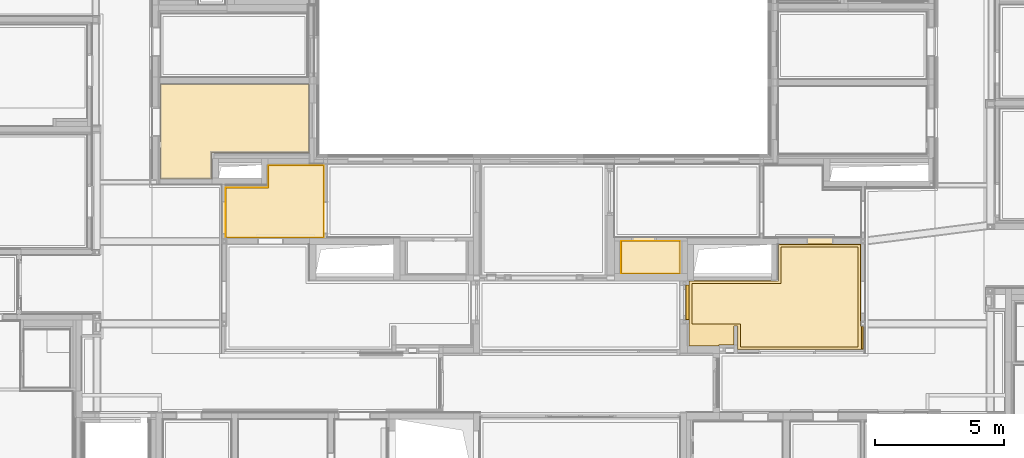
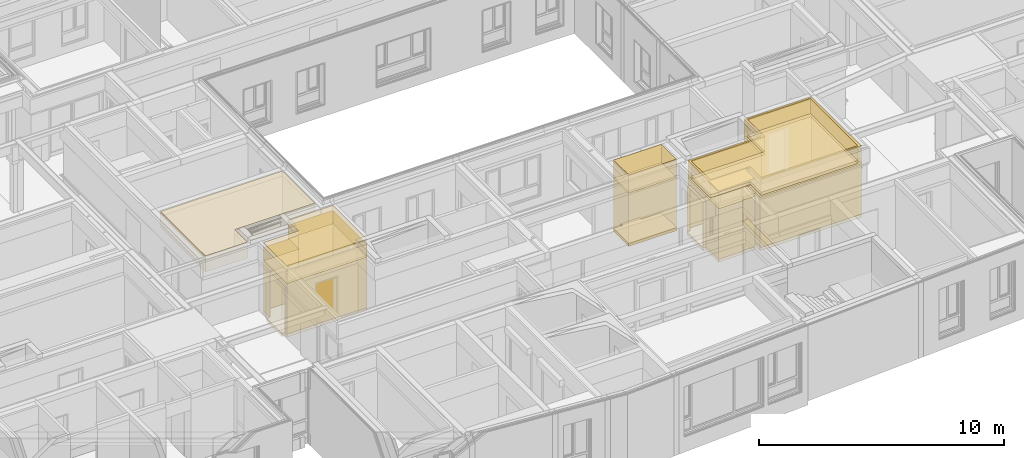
# One storey, part 169 of 222: 24 coverings.
"""IFC4 building model written with IfcOpenShell, lengths in metres."""

from ifc_helpers import new_model, entity, si_unit, converted_unit, derived_unit, frame, frame_2d, origin, place, context, subcontext, project, spatial, polyline, rectangle, outline, extrude, material, layer, layer_set, layer_usage, element, save


model = new_model("IFC4")

# Units and contexts
model_context = context("Model", 3, precision=1e-05, world=origin())
body_context = subcontext(model_context, "Body", "Model", "MODEL_VIEW")
ifc_project = project(units=[si_unit("LENGTHUNIT", "METRE"), si_unit("AREAUNIT", "SQUARE_METRE"), si_unit("VOLUMEUNIT", "CUBIC_METRE"), si_unit("MASSUNIT", "GRAM", prefix="KILO"), converted_unit("PLANEANGLEUNIT", "DEGREE", entity("IfcPlaneAngleMeasure", 0.0174532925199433), si_unit("PLANEANGLEUNIT", "RADIAN"), dimensions=[0, 0, 0, 0, 0, 0, 0]), derived_unit("THERMALTRANSMITTANCEUNIT", [(si_unit("POWERUNIT", "WATT"), 1), (si_unit("THERMODYNAMICTEMPERATUREUNIT", "KELVIN"), -1), (si_unit("LENGTHUNIT", "METRE"), -2)]), derived_unit("VOLUMETRICFLOWRATEUNIT", [(si_unit("LENGTHUNIT", "METRE"), 3), (converted_unit("TIMEUNIT", "hour", entity("IfcTimeMeasure", 3600.0), si_unit("TIMEUNIT", "SECOND"), dimensions=[0, 0, 1, 0, 0, 0, 0]), -1), (si_unit("LENGTHUNIT", "METRE"), -1)])], contexts=[model_context])

# Site, building, storey, space
site_placement = place(None, origin())
site = spatial("IfcSite", under=ifc_project, at=site_placement, Name="Psychiatrie Neubau Wunstorf", CompositionType="ELEMENT")
building_placement = place(site_placement, origin())
building = spatial("IfcBuilding", under=site, at=building_placement, Name="Neubau H2 Stationsgebäude", CompositionType="ELEMENT")
storey_placement = place(building_placement, frame((0.0, 0.0, 3.6)))
storey = spatial("IfcBuildingStorey", under=building, at=storey_placement, Name="H2 Ebene +1", CompositionType="ELEMENT", Elevation=3.6)
space_1_placement = place(storey_placement, frame((40.724997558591, 7.29984136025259, 0.0)))
space_1 = spatial("IfcSpace", under=storey, at=space_1_placement, Name="WUN-H2-E01-012", CompositionType="ELEMENT")

# Coverings
ifc_material_1 = material(Name="Ku1")
ifc_layer_1 = layer(ifc_material_1, 0.15)
ifc_layer_set_1 = layer_set([ifc_layer_1])
ifc_layer_usage_1 = layer_usage(ifc_layer_set_1, "AXIS3", "POSITIVE", 0.0)
covering_1_placement = place(space_1_placement, frame((-0.149999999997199, 0.0, 0.0)))
element("IfcCovering", 1, at=covering_1_placement, inside=space_1, material=ifc_layer_usage_1, Name="PVC Bahnenware Holzoptik", PredefinedType="FLOORING", context=body_context, shape_type="SweptSolid", body=[
    extrude(rectangle(XDim=0.15, YDim=1.26, at=frame_2d((0.075, 0.63), x_axis=(1.0, 0.0))), frame((0.0, 0.12515833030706, 0.0), z_axis=(0.0, 0.0, 1.0), x_axis=(1.0, 0.0, 0.0)), (0.0, 0.0, 1.0), 0.15),
    extrude(outline(polyline([(1.65495325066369, 1.91015525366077), (0.0, 1.91015525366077), (0.0, 0.0), (3.77500244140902, 0.00015833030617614), (3.77500244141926, 2.77415833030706), (1.65495325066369, 2.77415833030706), (1.65495325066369, 1.91015525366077)])), frame((0.149999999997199, 0.0, 0.0), z_axis=(0.0, 0.0, 1.0), x_axis=(1.0, 0.0, 0.0)), (0.0, 0.0, 1.0), 0.15),
])
ifc_material_2 = material()
ifc_layer_2 = layer(ifc_material_2, 0.036)
ifc_layer_set_2 = layer_set([ifc_layer_2])
ifc_layer_usage_2 = layer_usage(ifc_layer_set_2, "AXIS3", "POSITIVE", 0.0)
covering_2_placement = place(space_1_placement, frame((0.0, 0.0, 3.55)))
element("IfcCovering", 2, at=covering_2_placement, inside=space_1, material=ifc_layer_usage_2, Name="Gipsfaserplatten 2-lagig (BSK)", PredefinedType="CEILING", context=body_context, shape_type="SweptSolid", body=[
    extrude(outline(polyline([(0.0, 0.864003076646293), (1.65495325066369, 0.864003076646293), (1.65495325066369, 0.0), (3.77500244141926, 0.0), (3.77500244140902, 2.77400000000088), (0.0, 2.77415833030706), (0.0, 0.864003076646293)])), frame((0.0, 2.77415833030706, 0.0), z_axis=(0.0, 0.0, -1.0), x_axis=(1.0, 0.0, 0.0)), (0.0, 0.0, 1.0), 0.036),
])
ifc_material_3 = material(Name="Installationshöhe")
ifc_layer_3 = layer(ifc_material_3, 0.764)
ifc_layer_set_3 = layer_set([ifc_layer_3])
ifc_layer_usage_3 = layer_usage(ifc_layer_set_3, "AXIS3", "POSITIVE", 0.0)
covering_3_placement = place(space_1_placement, frame((0.0, 0.0, 3.514)))
element("IfcCovering", 3, at=covering_3_placement, inside=space_1, material=ifc_layer_usage_3, Name="Gipsfaserplatten 2-lagig (BSK)", PredefinedType="CEILING", context=body_context, shape_type="SweptSolid", body=[
    extrude(outline(polyline([(0.0, 0.864003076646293), (1.65495325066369, 0.864003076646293), (1.65495325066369, 0.0), (3.77500244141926, 0.0), (3.77500244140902, 2.77400000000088), (0.0, 2.77415833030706), (0.0, 0.864003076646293)])), frame((0.0, 2.77415833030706, 0.0), z_axis=(0.0, 0.0, -1.0), x_axis=(1.0, 0.0, 0.0)), (0.0, 0.0, 1.0), 0.764),
])
ifc_material_4 = material(Name="A1")
ifc_layer_4 = layer(ifc_material_4, 0.1)
ifc_layer_set_4 = layer_set([ifc_layer_4])
ifc_layer_usage_4 = layer_usage(ifc_layer_set_4, "AXIS3", "POSITIVE", 0.0)
covering_4_placement = place(space_1_placement, frame((0.0, 0.0, 2.75)))
element("IfcCovering", 4, at=covering_4_placement, inside=space_1, material=ifc_layer_usage_4, Name="Gipsfaserplatten 2-lagig (BSK)", PredefinedType="CEILING", context=body_context, shape_type="SweptSolid", body=[
    extrude(outline(polyline([(0.0, 0.864003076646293), (1.65495325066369, 0.864003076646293), (1.65495325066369, 0.0), (3.77500244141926, 0.0), (3.77500244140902, 2.77400000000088), (0.0, 2.77415833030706), (0.0, 0.864003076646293)])), frame((0.0, 2.77415833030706, 0.0), z_axis=(0.0, 0.0, -1.0), x_axis=(1.0, 0.0, 0.0)), (0.0, 0.0, 1.0), 0.1),
])
ifc_material_5 = material(Name="D1")
ifc_layer_5 = layer(ifc_material_5, 0.001)
ifc_layer_set_5 = layer_set([ifc_layer_5])
ifc_layer_usage_5 = layer_usage(ifc_layer_set_5, "AXIS3", "POSITIVE", 0.0)
covering_5_placement = place(space_1_placement, frame((0.0, 0.0, 2.65)))
element("IfcCovering", 5, at=covering_5_placement, inside=space_1, material=ifc_layer_usage_5, Name="Gipsfaserplatten 2-lagig (BSK)", PredefinedType="CEILING", context=body_context, shape_type="SweptSolid", body=[
    extrude(outline(polyline([(0.0, 0.864003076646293), (1.65495325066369, 0.864003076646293), (1.65495325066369, 0.0), (3.77500244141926, 0.0), (3.77500244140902, 2.77400000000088), (0.0, 2.77415833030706), (0.0, 0.864003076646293)])), frame((0.0, 2.77415833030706, 0.0), z_axis=(0.0, 0.0, -1.0), x_axis=(1.0, 0.0, 0.0)), (0.0, 0.0, 1.0), 0.001),
])
ifc_material_6 = material(Name="49")
ifc_layer_6 = layer(ifc_material_6, 0.001)
ifc_layer_set_6 = layer_set([ifc_layer_6])
ifc_layer_usage_6 = layer_usage(ifc_layer_set_6, "AXIS3", "POSITIVE", 0.0)
covering_6_placement = place(space_1_placement, frame((0.0, 0.0, 0.15)))
element("IfcCovering", 6, at=covering_6_placement, inside=space_1, material=ifc_layer_usage_6, PredefinedType="CLADDING", context=body_context, shape_type="SweptSolid", body=[
    extrude(rectangle(XDim=2.12004919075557, YDim=3.15, at=frame_2d((1.06002459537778, -1.575), x_axis=(1.0, 0.0))), frame((3.77500244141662, 2.77415833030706, 0.0), z_axis=(0.0, -1.0, 0.0), x_axis=(-1.0, 0.0, 0.0)), (0.0, 0.0, 1.0), 0.001),
    extrude(rectangle(XDim=0.864003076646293, YDim=3.15, at=frame_2d((0.432001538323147, -1.575), x_axis=(1.0, 0.0))), frame((1.65495325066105, 2.77415833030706, 0.0), z_axis=(1.0, 0.0, 0.0), x_axis=(0.0, -1.0, 0.0)), (0.0, 0.0, 1.0), 0.001),
    extrude(rectangle(XDim=1.65495325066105, YDim=3.15, at=frame_2d((0.827476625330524, -1.575), x_axis=(1.0, 0.0))), frame((1.65495325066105, 1.91015525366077, 0.0), z_axis=(0.0, -1.0, 0.0), x_axis=(-1.0, 0.0, 0.0)), (0.0, 0.0, 1.0), 0.001),
    extrude(outline(polyline([(0.0, 3.15), (0.524996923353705, 3.15), (0.524996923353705, 0.89), (1.78499692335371, 0.89), (1.78499692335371, 3.15), (1.91015525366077, 3.15), (1.91015525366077, 0.0), (0.0, 0.0), (0.0, 3.15)])), frame((0.0, 1.91015525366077, 3.15), z_axis=(1.0, -1.10786174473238e-12, -2.31746986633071e-13), x_axis=(-1.10786174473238e-12, -1.0, 0.0)), (0.0, 0.0, 1.0), 0.001),
    extrude(rectangle(XDim=3.77500244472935, YDim=3.15, at=frame_2d((1.88750122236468, -1.575), x_axis=(1.0, 0.0))), frame((0.0, 0.0, 0.0), z_axis=(-4.19417757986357e-05, 0.999999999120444, 0.0), x_axis=(0.999999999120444, 4.19417757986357e-05, 0.0)), (0.0, 0.0, 1.0), 0.001),
    extrude(outline(polyline([(0.0, 3.15), (0.125000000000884, 3.15), (0.125000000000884, 0.89), (1.38500000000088, 0.89), (1.38500000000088, 3.15), (2.77400000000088, 3.15), (2.77400000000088, 0.0), (0.0, 0.0), (0.0, 3.15)])), frame((3.77500244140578, 0.00015833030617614, 3.15), z_axis=(-1.0, 3.1588717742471e-12, -2.67020734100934e-13), x_axis=(3.1588717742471e-12, 1.0, 0.0)), (0.0, 0.0, 1.0), 0.001),
])

# Space
space_2_placement = place(storey_placement, frame((38.204, 9.55599624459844, 0.0)))
space_2 = spatial("IfcSpace", under=storey, at=space_2_placement, Name="WUN-H2-E01-011", CompositionType="ELEMENT")

# Coverings
ifc_material_7 = material()
ifc_layer_7 = layer(ifc_material_7, 0.036)
ifc_layer_set_7 = layer_set([ifc_layer_7])
ifc_layer_usage_7 = layer_usage(ifc_layer_set_7, "AXIS3", "POSITIVE", 0.0)
covering_7_placement = place(space_2_placement, frame((0.0, 0.0, 3.55)))
element("IfcCovering", 7, at=covering_7_placement, inside=space_2, material=ifc_layer_usage_7, Name="Gipsfaserplatten 2-lagig (BSK)", PredefinedType="CEILING", context=body_context, shape_type="SweptSolid", body=[
    extrude(outline(polyline([(0.0, 0.0), (5.73500000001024, 0.0), (5.73500000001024, 0.729758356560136), (5.73498150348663, 0.729758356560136), (5.73500000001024, 2.63650292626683), (1.96595153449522, 2.63650292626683), (1.96595153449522, 3.66150038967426), (0.0, 3.66150038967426), (0.0, 0.0)])), frame((0.0, 3.66150038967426, 0.0), z_axis=(0.0, 0.0, -1.0), x_axis=(1.0, 0.0, 0.0)), (0.0, 0.0, 1.0), 0.036),
])
ifc_material_8 = material(Name="Installationshöhe")
ifc_layer_8 = layer(ifc_material_8, 0.764)
ifc_layer_set_8 = layer_set([ifc_layer_8])
ifc_layer_usage_8 = layer_usage(ifc_layer_set_8, "AXIS3", "POSITIVE", 0.0)
covering_8_placement = place(space_2_placement, frame((0.0, 0.0, 3.514)))
element("IfcCovering", 8, at=covering_8_placement, inside=space_2, material=ifc_layer_usage_8, Name="Gipsfaserplatten 2-lagig (BSK)", PredefinedType="CEILING", context=body_context, shape_type="SweptSolid", body=[
    extrude(outline(polyline([(0.0, 0.0), (5.73500000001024, 0.0), (5.73500000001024, 0.729758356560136), (5.73498150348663, 0.729758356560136), (5.73500000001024, 2.63650292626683), (1.96595153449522, 2.63650292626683), (1.96595153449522, 3.66150038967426), (0.0, 3.66150038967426), (0.0, 0.0)])), frame((0.0, 3.66150038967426, 0.0), z_axis=(0.0, 0.0, -1.0), x_axis=(1.0, 0.0, 0.0)), (0.0, 0.0, 1.0), 0.764),
])

# Space
space_3_placement = place(storey_placement, frame((56.0075000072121, 5.90749969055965, 0.0)))
space_3 = spatial("IfcSpace", under=storey, at=space_3_placement, Name="WUN-H2-E01-064b", CompositionType="ELEMENT")

# Coverings
ifc_material_9 = material(Name="Fl1")
ifc_layer_9 = layer(ifc_material_9, 0.15)
ifc_layer_set_9 = layer_set([ifc_layer_9])
ifc_layer_usage_9 = layer_usage(ifc_layer_set_9, "AXIS3", "POSITIVE", 0.0)
covering_9_placement = place(space_3_placement, origin())
element("IfcCovering", 9, at=covering_9_placement, inside=space_3, material=ifc_layer_usage_9, Name="Fliesen", PredefinedType="FLOORING", context=body_context, shape_type="SweptSolid", body=[
    extrude(rectangle(XDim=0.15, YDim=0.885, at=frame_2d((0.4425, -0.075), x_axis=(0.0, -1.0))), frame((0.422, 1.39249999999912, 0.0), z_axis=(0.0, 0.0, 1.0), x_axis=(1.0, 0.0, 0.0)), (0.0, 0.0, 1.0), 0.15),
    extrude(rectangle(XDim=1.24249999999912, YDim=2.25749999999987, at=frame_2d((1.12874999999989, -0.621249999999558), x_axis=(-7.0270818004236e-14, -1.0))), frame((0.0, 1.24249999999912, 0.0), z_axis=(0.0, 0.0, 1.0), x_axis=(1.0, 0.0, 0.0)), (0.0, 0.0, 1.0), 0.15),
])
ifc_material_10 = material()
ifc_layer_10 = layer(ifc_material_10, 0.036)
ifc_layer_set_10 = layer_set([ifc_layer_10])
ifc_layer_usage_10 = layer_usage(ifc_layer_set_10, "AXIS3", "POSITIVE", 0.0)
covering_10_placement = place(space_3_placement, frame((0.0, 0.0, 3.55)))
element("IfcCovering", 10, at=covering_10_placement, inside=space_3, material=ifc_layer_usage_10, Name="Gipsfaserplatten 2-lagig (BSK)", PredefinedType="CEILING", context=body_context, shape_type="SweptSolid", body=[
    extrude(rectangle(XDim=1.24249999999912, YDim=2.25749999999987, at=frame_2d((1.12874999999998, -0.621249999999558), x_axis=(7.0270818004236e-14, -1.0))), frame((0.0, 0.0, 0.0), z_axis=(0.0, 0.0, -1.0), x_axis=(1.0, 0.0, 0.0)), (0.0, 0.0, 1.0), 0.036),
])
ifc_material_11 = material(Name="Installationshöhe")
ifc_layer_11 = layer(ifc_material_11, 0.764)
ifc_layer_set_11 = layer_set([ifc_layer_11])
ifc_layer_usage_11 = layer_usage(ifc_layer_set_11, "AXIS3", "POSITIVE", 0.0)
covering_11_placement = place(space_3_placement, frame((0.0, 0.0, 3.514)))
element("IfcCovering", 11, at=covering_11_placement, inside=space_3, material=ifc_layer_usage_11, Name="Gipsfaserplatten 2-lagig (BSK)", PredefinedType="CEILING", context=body_context, shape_type="SweptSolid", body=[
    extrude(rectangle(XDim=1.24249999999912, YDim=2.25749999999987, at=frame_2d((1.12874999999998, -0.621249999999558), x_axis=(7.0270818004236e-14, -1.0))), frame((0.0, 0.0, 0.0), z_axis=(0.0, 0.0, -1.0), x_axis=(1.0, 0.0, 0.0)), (0.0, 0.0, 1.0), 0.764),
])
ifc_material_12 = material(Name="B")
ifc_layer_12 = layer(ifc_material_12, 0.1)
ifc_layer_set_12 = layer_set([ifc_layer_12])
ifc_layer_usage_12 = layer_usage(ifc_layer_set_12, "AXIS3", "POSITIVE", 0.0)
covering_12_placement = place(space_3_placement, frame((0.0, 0.0, 2.75)))
element("IfcCovering", 12, at=covering_12_placement, inside=space_3, material=ifc_layer_usage_12, Name="Gipskarton, imprägniert", PredefinedType="CEILING", context=body_context, shape_type="SweptSolid", body=[
    extrude(rectangle(XDim=1.24249999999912, YDim=2.25749999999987, at=frame_2d((1.12874999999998, -0.621249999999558), x_axis=(7.0270818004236e-14, -1.0))), frame((0.0, 0.0, 0.0), z_axis=(0.0, 0.0, -1.0), x_axis=(1.0, 0.0, 0.0)), (0.0, 0.0, 1.0), 0.1),
])
ifc_material_13 = material(Name="D1")
ifc_layer_13 = layer(ifc_material_13, 0.001)
ifc_layer_set_13 = layer_set([ifc_layer_13])
ifc_layer_usage_13 = layer_usage(ifc_layer_set_13, "AXIS3", "POSITIVE", 0.0)
covering_13_placement = place(space_3_placement, frame((0.0, 0.0, 2.65)))
element("IfcCovering", 13, at=covering_13_placement, inside=space_3, material=ifc_layer_usage_13, Name="Gipsfaserplatten 2-lagig (BSK)", PredefinedType="CEILING", context=body_context, shape_type="SweptSolid", body=[
    extrude(rectangle(XDim=1.24249999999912, YDim=2.25749999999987, at=frame_2d((1.12874999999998, -0.621249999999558), x_axis=(7.0270818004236e-14, -1.0))), frame((0.0, 0.0, 0.0), z_axis=(0.0, 0.0, -1.0), x_axis=(1.0, 0.0, 0.0)), (0.0, 0.0, 1.0), 0.001),
])
ifc_material_14 = material(Name="64")
ifc_layer_14 = layer(ifc_material_14, 0.01)
ifc_layer_set_14 = layer_set([ifc_layer_14])
ifc_layer_usage_14 = layer_usage(ifc_layer_set_14, "AXIS3", "POSITIVE", 0.0)
covering_14_placement = place(space_3_placement, origin())
element("IfcCovering", 14, at=covering_14_placement, inside=space_3, material=ifc_layer_usage_14, Name="a-sh Wandbelag", PredefinedType="CLADDING", context=body_context, shape_type="SweptSolid", body=[
    extrude(rectangle(XDim=3.55, YDim=1.24249999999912, at=frame_2d((-0.621249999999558, -1.775), x_axis=(0.0, -1.0))), frame((2.25749999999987, 1.24249999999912, 0.0), z_axis=(-1.0, 7.0270818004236e-14, 0.0), x_axis=(7.0270818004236e-14, 1.0, 0.0)), (0.0, 0.0, 1.0), 0.01),
    extrude(outline(polyline([(2.25749999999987, 3.55), (2.25749999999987, 0.0), (0.0, 0.0), (0.0, 3.55), (0.950499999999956, 3.55), (0.950499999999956, 1.14), (1.83549999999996, 1.14), (1.83549999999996, 3.55), (2.25749999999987, 3.55)])), frame((2.25749999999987, 1.24249999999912, 3.55), z_axis=(0.0, -1.0, 0.0), x_axis=(-1.0, 0.0, 0.0)), (0.0, 0.0, 1.0), 0.01),
    extrude(rectangle(XDim=3.55, YDim=1.24249999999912, at=frame_2d((-0.621249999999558, -1.775), x_axis=(0.0, -1.0))), frame((0.0, 0.0, 0.0), z_axis=(1.0, -7.0270818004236e-14, 0.0), x_axis=(-7.0270818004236e-14, -1.0, 0.0)), (0.0, 0.0, 1.0), 0.01),
    extrude(rectangle(XDim=3.55, YDim=2.25749999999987, at=frame_2d((-1.12874999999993, -1.775), x_axis=(0.0, -1.0))), frame((2.25749999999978, 0.0, 0.0), z_axis=(0.0, 1.0, 0.0), x_axis=(1.0, 0.0, 0.0)), (0.0, 0.0, 1.0), 0.01),
])

# Space
space_4_placement = place(storey_placement, frame((58.625000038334, 2.96762409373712, 0.0)))
space_4 = spatial("IfcSpace", under=storey, at=space_4_placement, Name="WUN-H2-E01-073", CompositionType="ELEMENT")

# Coverings
ifc_material_15 = material()
ifc_layer_15 = layer(ifc_material_15, 0.036)
ifc_layer_set_15 = layer_set([ifc_layer_15])
ifc_layer_usage_15 = layer_usage(ifc_layer_set_15, "AXIS3", "POSITIVE", 0.0)
covering_15_placement = place(space_4_placement, frame((0.100000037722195, 0.0999876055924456, 3.55)))
element("IfcCovering", 15, at=covering_15_placement, inside=space_4, material=ifc_layer_usage_15, Name="Gipsfaserplatten 2-lagig (BSK)", PredefinedType="CEILING", context=body_context, shape_type="SweptSolid", body=[
    extrude(outline(polyline([(0.0, 1.40550304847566), (3.45499956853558, 1.40549994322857), (3.45499956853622, 0.0), (6.42449584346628, 1.18426350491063e-06), (6.42449259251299, 3.85538793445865), (1.87500311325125, 3.85534293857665), (1.87449882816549, 2.9655932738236), (0.0, 2.96558721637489), (0.0, 1.40550304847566)])), frame((0.0, 3.85538793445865, 0.0), z_axis=(0.0, 0.0, -1.0), x_axis=(1.0, 0.0, 0.0)), (0.0, 0.0, 1.0), 0.036),
])
ifc_material_16 = material(Name="Installationshöhe")
ifc_layer_16 = layer(ifc_material_16, 0.714)
ifc_layer_set_16 = layer_set([ifc_layer_16])
ifc_layer_usage_16 = layer_usage(ifc_layer_set_16, "AXIS3", "POSITIVE", 0.0)
covering_16_placement = place(space_4_placement, frame((0.100000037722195, 0.0999876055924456, 3.514)))
element("IfcCovering", 16, at=covering_16_placement, inside=space_4, material=ifc_layer_usage_16, Name="Gipsfaserplatten 2-lagig (BSK)", PredefinedType="CEILING", context=body_context, shape_type="SweptSolid", body=[
    extrude(outline(polyline([(0.0, 1.40550304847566), (3.45499956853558, 1.40549994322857), (3.45499956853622, 0.0), (6.42449584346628, 1.18426350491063e-06), (6.42449259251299, 3.85538793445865), (1.87500311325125, 3.85534293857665), (1.87449882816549, 2.9655932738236), (0.0, 2.96558721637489), (0.0, 1.40550304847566)])), frame((0.0, 3.85538793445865, 0.0), z_axis=(0.0, 0.0, -1.0), x_axis=(1.0, 0.0, 0.0)), (0.0, 0.0, 1.0), 0.714),
])
ifc_material_17 = material(Name="Aa")
ifc_layer_17 = layer(ifc_material_17, 0.15)
ifc_layer_set_17 = layer_set([ifc_layer_17])
ifc_layer_usage_17 = layer_usage(ifc_layer_set_17, "AXIS3", "POSITIVE", 0.0)
covering_17_placement = place(space_4_placement, frame((0.100000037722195, 0.0999876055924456, 2.8)))
element("IfcCovering", 17, at=covering_17_placement, inside=space_4, material=ifc_layer_usage_17, Name="Gipsfaserplatten 2-lagig (BSK)", PredefinedType="CEILING", context=body_context, shape_type="SweptSolid", body=[
    extrude(outline(polyline([(0.0, 1.40550304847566), (3.45499956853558, 1.40549994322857), (3.45499956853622, 0.0), (6.42449584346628, 1.18426350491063e-06), (6.42449259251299, 3.85538793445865), (1.87500311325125, 3.85534293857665), (1.87449882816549, 2.9655932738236), (0.0, 2.96558721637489), (0.0, 1.40550304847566)])), frame((0.0, 3.85538793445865, 0.0), z_axis=(0.0, 0.0, -1.0), x_axis=(1.0, 0.0, 0.0)), (0.0, 0.0, 1.0), 0.15),
])
ifc_material_18 = material(Name="D1")
ifc_layer_18 = layer(ifc_material_18, 0.001)
ifc_layer_set_18 = layer_set([ifc_layer_18])
ifc_layer_usage_18 = layer_usage(ifc_layer_set_18, "AXIS3", "POSITIVE", 0.0)
covering_18_placement = place(space_4_placement, frame((0.100000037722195, 0.0999876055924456, 2.65)))
element("IfcCovering", 18, at=covering_18_placement, inside=space_4, material=ifc_layer_usage_18, Name="Gipsfaserplatten 2-lagig (BSK)", PredefinedType="CEILING", context=body_context, shape_type="SweptSolid", body=[
    extrude(outline(polyline([(0.0, 1.40550304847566), (3.45499956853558, 1.40549994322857), (3.45499956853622, 0.0), (6.42449584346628, 1.18426350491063e-06), (6.42449259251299, 3.85538793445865), (1.87500311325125, 3.85534293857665), (1.87449882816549, 2.9655932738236), (0.0, 2.96558721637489), (0.0, 1.40550304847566)])), frame((0.0, 3.85538793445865, 0.0), z_axis=(0.0, 0.0, -1.0), x_axis=(1.0, 0.0, 0.0)), (0.0, 0.0, 1.0), 0.001),
])
ifc_material_19 = material(Name="Ku1")
ifc_layer_19 = layer(ifc_material_19, 0.15)
ifc_layer_set_19 = layer_set([ifc_layer_19])
ifc_layer_usage_19 = layer_usage(ifc_layer_set_19, "AXIS3", "POSITIVE", 0.0)
covering_19_placement = place(space_4_placement, frame((-0.142000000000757, 0.0, 0.0)))
element("IfcCovering", 19, at=covering_19_placement, inside=space_4, material=ifc_layer_usage_19, Name="PVC Bahnenware Holzoptik", PredefinedType="FLOORING", context=body_context, shape_type="SweptSolid", body=[
    extrude(rectangle(XDim=0.142000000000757, YDim=1.325, at=frame_2d((0.0710000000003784, 0.6625), x_axis=(1.0, 0.0))), frame((0.0, 1.15485316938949, 0.0), z_axis=(0.0, 0.0, 1.0), x_axis=(1.0, 0.0, 0.0)), (0.0, 0.0, 1.0), 0.15),
    extrude(rectangle(XDim=0.272, YDim=1.01, at=frame_2d((-0.505, 0.136), x_axis=(0.0, 1.0))), frame((5.70199996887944, 4.05537559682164, 0.0), z_axis=(0.0, 0.0, 1.0), x_axis=(1.0, 0.0, 0.0)), (0.0, 0.0, 1.0), 0.15),
    extrude(outline(polyline([(1.87499996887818, 0.900001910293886), (1.875003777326, 3.19751258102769e-05), (6.6499962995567, 0.0), (6.6499962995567, 0.902372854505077), (6.62512519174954, 0.90225098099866), (6.62499629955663, 4.05537365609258), (3.45499960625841, 4.05537559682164), (3.45499960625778, 2.64987559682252), (0.0, 2.64987559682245), (0.0, 0.13987559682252), (1.14687628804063, 0.139875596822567), (1.14687628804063, 0.174885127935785), (1.72497657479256, 0.174885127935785), (1.72499996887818, 0.900001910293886), (1.87499996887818, 0.900001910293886)])), frame((0.142000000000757, 0.0, 0.0), z_axis=(0.0, 0.0, 1.0), x_axis=(1.0, 0.0, 0.0)), (0.0, 0.0, 1.0), 0.15),
])
ifc_material_20 = material()
ifc_layer_20 = layer(ifc_material_20, 0.036)
ifc_layer_set_20 = layer_set([ifc_layer_20])
ifc_layer_usage_20 = layer_usage(ifc_layer_set_20, "AXIS3", "POSITIVE", 0.0)
covering_20_placement = place(space_4_placement, frame((0.0, 0.0, 3.55)))
element("IfcCovering", 20, at=covering_20_placement, inside=space_4, material=ifc_layer_usage_20, Name="Gipsfaserplatten 2-lagig (BSK)", PredefinedType="CEILING", context=body_context, shape_type="SweptSolid", body=[
    extrude(outline(polyline([(1.875003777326, 4.05534362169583), (1.87499996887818, 3.15537368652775), (1.72499996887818, 3.15537368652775), (1.72497657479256, 3.88049046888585), (1.14687628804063, 3.88049046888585), (1.14687628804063, 3.91549999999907), (0.0, 3.91549999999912), (0.0, 1.40549999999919), (3.45499960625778, 1.40549999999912), (3.45499960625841, 0.0), (6.62499629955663, 1.9407290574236e-06), (6.62512519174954, 3.15312461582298), (6.6499962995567, 3.15300274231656), (6.6499962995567, 4.05537559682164), (1.875003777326, 4.05534362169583)]), holes=[polyline([(3.55499960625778, 1.50549999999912), (0.100000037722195, 1.5055031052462), (0.100000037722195, 3.06558727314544), (1.97449886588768, 3.06559333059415), (1.97500315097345, 3.95534299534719), (6.52449263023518, 3.95538799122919), (6.52449588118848, 0.10000124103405), (3.55499960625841, 0.100000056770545), (3.55499960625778, 1.50549999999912)])]), frame((0.0, 4.05537559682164, 0.0), z_axis=(0.0, 0.0, -1.0), x_axis=(1.0, 0.0, 0.0)), (0.0, 0.0, 1.0), 0.036),
])
ifc_material_21 = material(Name="Installationshöhe")
ifc_layer_21 = layer(ifc_material_21, 0.714)
ifc_layer_set_21 = layer_set([ifc_layer_21])
ifc_layer_usage_21 = layer_usage(ifc_layer_set_21, "AXIS3", "POSITIVE", 0.0)
covering_21_placement = place(space_4_placement, frame((0.0, 0.0, 3.514)))
element("IfcCovering", 21, at=covering_21_placement, inside=space_4, material=ifc_layer_usage_21, Name="Gipsfaserplatten 2-lagig (BSK)", PredefinedType="CEILING", context=body_context, shape_type="SweptSolid", body=[
    extrude(outline(polyline([(1.875003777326, 4.05534362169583), (1.87499996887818, 3.15537368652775), (1.72499996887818, 3.15537368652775), (1.72497657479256, 3.88049046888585), (1.14687628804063, 3.88049046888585), (1.14687628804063, 3.91549999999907), (0.0, 3.91549999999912), (0.0, 1.40549999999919), (3.45499960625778, 1.40549999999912), (3.45499960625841, 0.0), (6.62499629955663, 1.9407290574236e-06), (6.62512519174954, 3.15312461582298), (6.6499962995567, 3.15300274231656), (6.6499962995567, 4.05537559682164), (1.875003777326, 4.05534362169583)]), holes=[polyline([(3.55499960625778, 1.50549999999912), (0.100000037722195, 1.5055031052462), (0.100000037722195, 3.06558727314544), (1.97449886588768, 3.06559333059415), (1.97500315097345, 3.95534299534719), (6.52449263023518, 3.95538799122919), (6.52449588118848, 0.10000124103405), (3.55499960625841, 0.100000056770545), (3.55499960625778, 1.50549999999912)])]), frame((0.0, 4.05537559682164, 0.0), z_axis=(0.0, 0.0, -1.0), x_axis=(1.0, 0.0, 0.0)), (0.0, 0.0, 1.0), 0.714),
])
ifc_material_22 = material(Name="A1")
ifc_layer_22 = layer(ifc_material_22, 0.15)
ifc_layer_set_22 = layer_set([ifc_layer_22])
ifc_layer_usage_22 = layer_usage(ifc_layer_set_22, "AXIS3", "POSITIVE", 0.0)
covering_22_placement = place(space_4_placement, frame((0.0, 0.0, 2.8)))
element("IfcCovering", 22, at=covering_22_placement, inside=space_4, material=ifc_layer_usage_22, Name="Gipsfaserplatten 2-lagig (BSK)", PredefinedType="CEILING", context=body_context, shape_type="SweptSolid", body=[
    extrude(outline(polyline([(1.875003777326, 4.05534362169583), (1.87499996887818, 3.15537368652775), (1.72499996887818, 3.15537368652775), (1.72497657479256, 3.88049046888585), (1.14687628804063, 3.88049046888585), (1.14687628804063, 3.91549999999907), (0.0, 3.91549999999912), (0.0, 1.40549999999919), (3.45499960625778, 1.40549999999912), (3.45499960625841, 0.0), (6.62499629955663, 1.9407290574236e-06), (6.62512519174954, 3.15312461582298), (6.6499962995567, 3.15300274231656), (6.6499962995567, 4.05537559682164), (1.875003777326, 4.05534362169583)]), holes=[polyline([(3.55499960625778, 1.50549999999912), (0.100000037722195, 1.5055031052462), (0.100000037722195, 3.06558727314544), (1.97449886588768, 3.06559333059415), (1.97500315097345, 3.95534299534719), (6.52449263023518, 3.95538799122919), (6.52449588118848, 0.10000124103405), (3.55499960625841, 0.100000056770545), (3.55499960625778, 1.50549999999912)])]), frame((0.0, 4.05537559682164, 0.0), z_axis=(0.0, 0.0, -1.0), x_axis=(1.0, 0.0, 0.0)), (0.0, 0.0, 1.0), 0.15),
])
ifc_material_23 = material(Name="D1")
ifc_layer_23 = layer(ifc_material_23, 0.001)
ifc_layer_set_23 = layer_set([ifc_layer_23])
ifc_layer_usage_23 = layer_usage(ifc_layer_set_23, "AXIS3", "POSITIVE", 0.0)
covering_23_placement = place(space_4_placement, frame((0.0, 0.0, 2.65)))
element("IfcCovering", 23, at=covering_23_placement, inside=space_4, material=ifc_layer_usage_23, Name="Gipsfaserplatten 2-lagig (BSK)", PredefinedType="CEILING", context=body_context, shape_type="SweptSolid", body=[
    extrude(outline(polyline([(1.875003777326, 4.05534362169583), (1.87499996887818, 3.15537368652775), (1.72499996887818, 3.15537368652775), (1.72497657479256, 3.88049046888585), (1.14687628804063, 3.88049046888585), (1.14687628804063, 3.91549999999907), (0.0, 3.91549999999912), (0.0, 1.40549999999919), (3.45499960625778, 1.40549999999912), (3.45499960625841, 0.0), (6.62499629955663, 1.9407290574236e-06), (6.62512519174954, 3.15312461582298), (6.6499962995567, 3.15300274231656), (6.6499962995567, 4.05537559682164), (1.875003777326, 4.05534362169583)]), holes=[polyline([(3.55499960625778, 1.50549999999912), (0.100000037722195, 1.5055031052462), (0.100000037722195, 3.06558727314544), (1.97449886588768, 3.06559333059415), (1.97500315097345, 3.95534299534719), (6.52449263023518, 3.95538799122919), (6.52449588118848, 0.10000124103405), (3.55499960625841, 0.100000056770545), (3.55499960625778, 1.50549999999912)])]), frame((0.0, 4.05537559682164, 0.0), z_axis=(0.0, 0.0, -1.0), x_axis=(1.0, 0.0, 0.0)), (0.0, 0.0, 1.0), 0.001),
])
ifc_material_24 = material(Name="49")
ifc_layer_24 = layer(ifc_material_24, 0.001)
ifc_layer_set_24 = layer_set([ifc_layer_24])
ifc_layer_usage_24 = layer_usage(ifc_layer_set_24, "AXIS3", "POSITIVE", 0.0)
covering_24_placement = place(space_4_placement, frame((-0.142, 0.0, 0.15)))
element("IfcCovering", 24, at=covering_24_placement, inside=space_4, material=ifc_layer_usage_24, PredefinedType="CLADDING", context=body_context, shape_type="SweptSolid", body=[
    extrude(rectangle(XDim=0.725116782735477, YDim=3.15, at=frame_2d((0.362558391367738, -1.575), x_axis=(1.0, 0.0))), frame((1.86697657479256, 0.174885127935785, 0.0), z_axis=(-0.999999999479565, 3.2262507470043e-05, 0.0), x_axis=(3.2262507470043e-05, 0.999999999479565, 0.0)), (0.0, 0.0, 1.0), 0.001),
    extrude(rectangle(XDim=0.15, YDim=3.15, at=frame_2d((0.075, -1.575), x_axis=(1.0, 0.0))), frame((1.86699996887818, 0.900001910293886, 0.0), z_axis=(0.0, 1.0, 0.0), x_axis=(1.0, 0.0, 0.0)), (0.0, 0.0, 1.0), 0.001),
    extrude(rectangle(XDim=0.899969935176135, YDim=3.15, at=frame_2d((0.449984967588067, -1.575), x_axis=(1.0, 0.0))), frame((2.01699996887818, 0.900001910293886, 0.0), z_axis=(0.999999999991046, 4.23175006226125e-06, 0.0), x_axis=(4.23175006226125e-06, -0.999999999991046, 0.0)), (0.0, 0.0, 1.0), 0.001),
    extrude(rectangle(XDim=4.77499252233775, YDim=3.15, at=frame_2d((2.38749626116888, -1.575), x_axis=(1.0, 0.0))), frame((2.017003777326, 3.19751258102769e-05, 0.0), z_axis=(6.6963719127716e-06, 0.999999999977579, 0.0), x_axis=(0.999999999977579, -6.69637191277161e-06, 0.0)), (0.0, 0.0, 1.0), 0.001),
    extrude(rectangle(XDim=0.902372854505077, YDim=1.08, at=frame_2d((0.451186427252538, -0.54), x_axis=(1.0, 0.0))), frame((6.7919962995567, 0.0, 0.0), z_axis=(-1.0, 0.0, 0.0), x_axis=(0.0, 1.0, 0.0)), (0.0, 0.0, 1.0), 0.001),
    extrude(rectangle(XDim=0.902372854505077, YDim=0.89, at=frame_2d((0.451186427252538, -0.445), x_axis=(1.0, 0.0))), frame((6.79199629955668, 0.0, 2.26), z_axis=(-1.0, 0.0, 8.1752332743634e-15), x_axis=(0.0, 1.0, 0.0)), (0.0, 0.0, 1.0), 0.001),
    extrude(rectangle(XDim=0.0248714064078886, YDim=3.15, at=frame_2d((0.0124357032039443, -1.575), x_axis=(1.0, 0.0))), frame((6.79199629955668, 0.902372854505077, 0.0), z_axis=(0.00490014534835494, -0.999987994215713, 0.0), x_axis=(-0.999987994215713, -0.00490014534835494, 0.0)), (0.0, 0.0, 1.0), 0.001),
    extrude(rectangle(XDim=3.15312267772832, YDim=3.15, at=frame_2d((1.57656133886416, -1.575), x_axis=(1.0, 0.0))), frame((6.76712519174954, 0.90225098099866, 0.0), z_axis=(-0.99999999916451, -4.08776334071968e-05, 0.0), x_axis=(-4.08776334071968e-05, 0.99999999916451, 0.0)), (0.0, 0.0, 1.0), 0.001),
    extrude(outline(polyline([(0.0, 3.15000000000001), (1.06499633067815, 3.15), (1.06499633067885, 0.88999999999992), (2.0749963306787, 0.889999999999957), (2.07499633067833, 3.15), (3.16999669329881, 3.14999999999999), (3.16999669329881, 0.0), (0.0, 0.0), (0.0, 3.15000000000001)])), frame((6.76699629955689, 4.05537412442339, 3.14999999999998), z_axis=(-5.48126989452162e-07, -0.999999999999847, 6.8061272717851e-08), x_axis=(-0.99999999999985, 5.48126989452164e-07, 0.0)), (0.0, 0.0, 1.0), 0.001),
    extrude(rectangle(XDim=1.40549999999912, YDim=3.15, at=frame_2d((0.702749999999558, -1.575), x_axis=(1.0, 0.0))), frame((3.59699960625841, 4.05537559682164, 0.0), z_axis=(1.0, -4.50379446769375e-13, 0.0), x_axis=(-4.50379446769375e-13, -1.0, 0.0)), (0.0, 0.0, 1.0), 0.001),
    extrude(rectangle(XDim=3.45499960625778, YDim=3.15, at=frame_2d((1.72749980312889, -1.575), x_axis=(1.0, 0.0))), frame((3.59699960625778, 2.64987559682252, 0.0), z_axis=(2.05327336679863e-14, -1.0, 0.0), x_axis=(-1.0, -2.05327336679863e-14, 0.0)), (0.0, 0.0, 1.0), 0.001),
    extrude(outline(polyline([(0.0, 3.15), (0.17002242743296, 3.15), (0.170022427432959, 0.89), (1.49502242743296, 0.89), (1.49502242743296, 3.15), (2.50999999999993, 3.15), (2.50999999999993, 0.0), (0.0, 0.0), (0.0, 3.15)])), frame((0.142, 2.64987559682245, 3.15), z_axis=(1.0, 0.0, 0.0), x_axis=(0.0, -1.0, 0.0)), (0.0, 0.0, 1.0), 0.001),
    extrude(rectangle(XDim=1.14687628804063, YDim=3.15, at=frame_2d((0.573438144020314, -1.575), x_axis=(1.0, 0.0))), frame((0.142, 0.13987559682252, 0.0), z_axis=(-4.08404791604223e-14, 1.0, 0.0), x_axis=(1.0, 4.08404791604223e-14, 0.0)), (0.0, 0.0, 1.0), 0.001),
    extrude(rectangle(XDim=0.0350095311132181, YDim=3.15, at=frame_2d((0.0175047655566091, -1.575), x_axis=(1.0, 0.0))), frame((1.28887628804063, 0.139875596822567, 0.0), z_axis=(-1.0, 0.0, 0.0), x_axis=(0.0, 1.0, 0.0)), (0.0, 0.0, 1.0), 0.001),
    extrude(rectangle(XDim=0.578100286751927, YDim=3.15, at=frame_2d((0.289050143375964, -1.575), x_axis=(1.0, 0.0))), frame((1.28887628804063, 0.174885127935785, 0.0), z_axis=(0.0, 1.0, 0.0), x_axis=(1.0, 0.0, 0.0)), (0.0, 0.0, 1.0), 0.001),
    extrude(rectangle(XDim=0.902372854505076, YDim=0.08, at=frame_2d((0.04, 0.451186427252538), x_axis=(0.0, 1.0))), frame((6.7919962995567, 0.902372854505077, 2.26), z_axis=(0.0, 0.0, -1.0), x_axis=(1.0, 0.0, 0.0)), (0.0, 0.0, 1.0), 0.001),
    extrude(rectangle(XDim=1.18, YDim=0.0799999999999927, at=frame_2d((-0.0399999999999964, -0.59), x_axis=(0.0, -1.0))), frame((6.7919962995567, 0.902372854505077, 1.08), z_axis=(0.0, -1.0, 0.0), x_axis=(-1.0, 0.0, 0.0)), (0.0, 0.0, 1.0), 0.001),
    extrude(rectangle(XDim=0.142, YDim=2.26, at=frame_2d((0.0709999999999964, -1.13), x_axis=(1.0, 0.0))), frame((0.142, 2.47985316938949, 0.0), z_axis=(0.0, -1.0, 0.0), x_axis=(-1.0, 0.0, 0.0)), (0.0, 0.0, 1.0), 0.001),
    extrude(rectangle(XDim=1.325, YDim=0.141999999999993, at=frame_2d((-0.0709999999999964, -0.6625), x_axis=(0.0, -1.0))), frame((0.142, 1.15485316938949, 2.26), z_axis=(0.0, 0.0, -1.0), x_axis=(1.0, 0.0, 0.0)), (0.0, 0.0, 1.0), 0.001),
    extrude(rectangle(XDim=2.26, YDim=0.142, at=frame_2d((0.071, 1.13), x_axis=(0.0, 1.0))), frame((0.0, 1.15485316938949, 2.26), z_axis=(0.0, 1.0, 0.0), x_axis=(1.0, 0.0, 0.0)), (0.0, 0.0, 1.0), 0.001),
])

save(model, "model.ifc")
